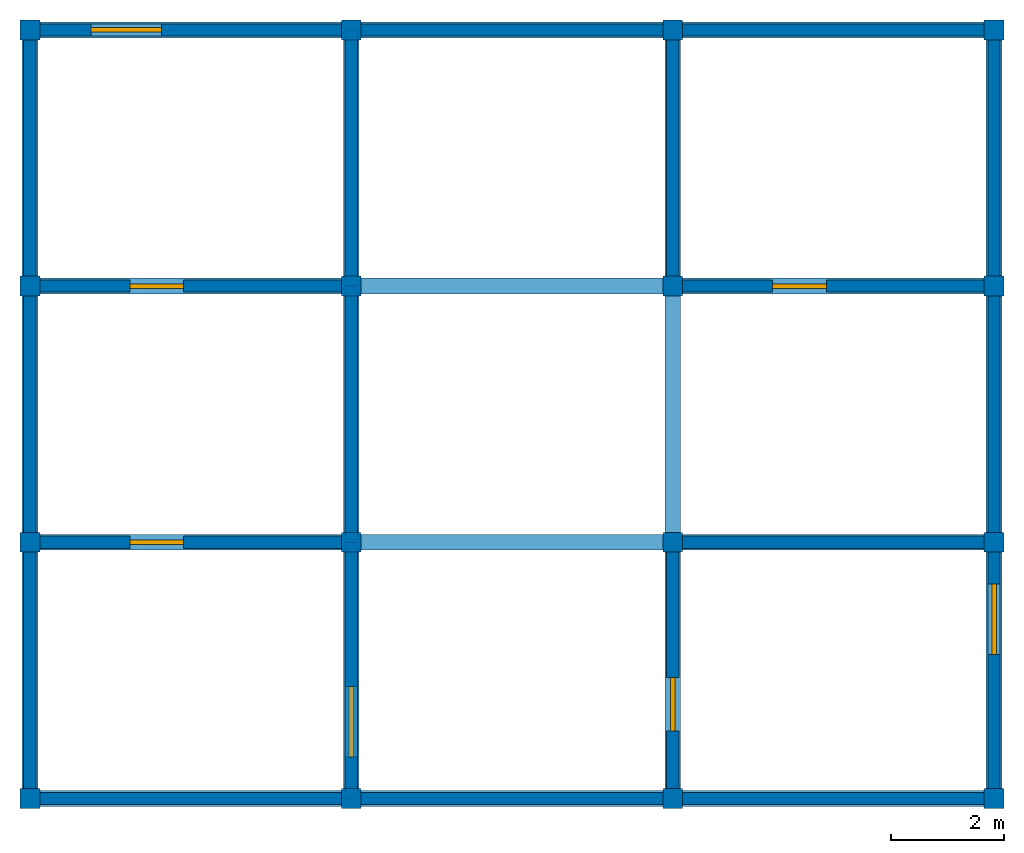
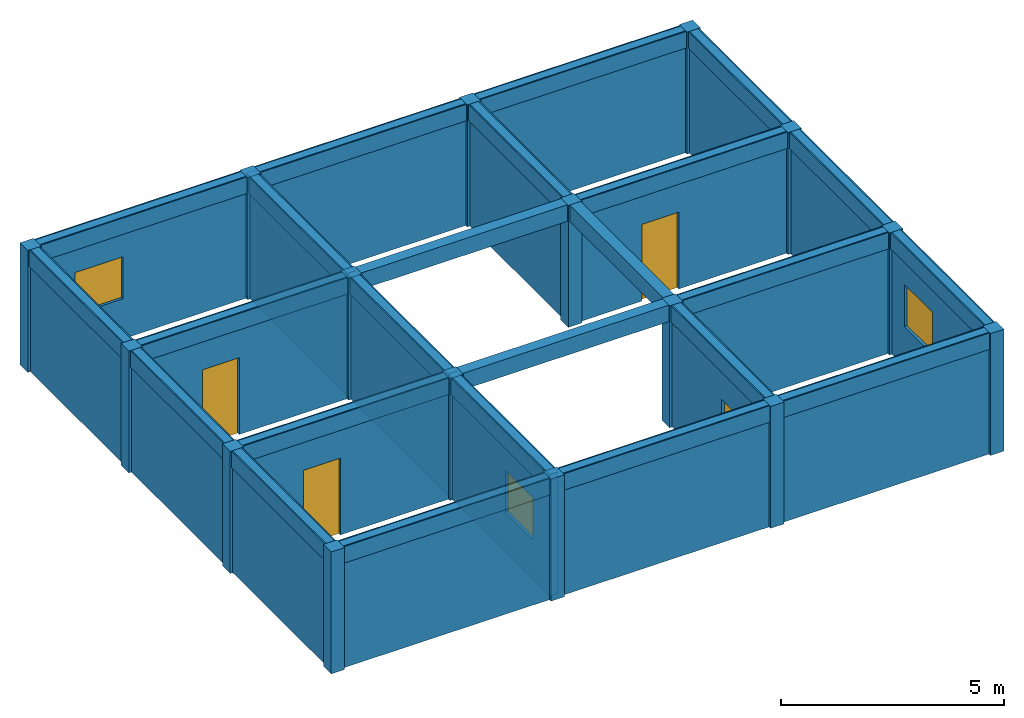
# One storey, incomplete: 24 beams, 24 walls, 16 columns, 4 doors, 3 windows, 7 openings.
"""IFC4X3 building model written with IfcOpenShell, lengths in metres."""

import ifcopenshell
import ifcopenshell.guid

model = None  # the IFC model being written
_history = None  # IfcOwnerHistory: only IFC2X3 demands one
_inside = {}  # id of a spatial element -> (the spatial element, [elements in it])
_under = {}  # id of a project, library or spatial element -> (it, [spatial elements below it])
_declared = {}  # id of a project -> (the project, [libraries it declares])
_typed = {}  # id of a type object -> (the type object, [elements of that type])
_made_of = {}  # id of a material, layer set ... -> (it, [elements and type objects made of it])


def new_model(schema):
    """Start an empty IFC model of exactly this schema.

    Asked for "IFC4X3", IfcOpenShell would pick the latest addendum, in which some entities
    have other attributes; the version numbers below select the first issue.
    IFC2X3 requires an IfcOwnerHistory on every rooted entity: one is made here for all.
    """
    global model, _history
    if schema == "IFC4X3":
        model = ifcopenshell.file(schema_version=(4, 3, 0, 0))
    else:
        model = ifcopenshell.file(schema=schema)
    _inside.clear()
    _under.clear()
    _declared.clear()
    _typed.clear()
    _made_of.clear()
    _history = None
    if model.schema == "IFC2X3":
        org = make("IfcOrganization", Name="unknown")
        user = make(
            "IfcPersonAndOrganization",
            ThePerson=make("IfcPerson", FamilyName="unknown"),
            TheOrganization=org,
        )
        app = make(
            "IfcApplication",
            ApplicationDeveloper=org,
            Version="unknown",
            ApplicationFullName="unknown",
            ApplicationIdentifier="unknown",
        )
        _history = make(
            "IfcOwnerHistory",
            OwningUser=user,
            OwningApplication=app,
            ChangeAction="ADDED",
            CreationDate=0,
        )
    return model


def make(cls, **values):
    """One entity of the class cls with the attributes given. An attribute that is None is left unset."""
    return model.create_entity(
        cls, **{name: value for name, value in values.items() if value is not None}
    )


def rooted(cls, **values):
    """An entity with a GlobalId (a new one), such as an element, a storey or a relation."""
    return make(cls, GlobalId=ifcopenshell.guid.new(), OwnerHistory=_history, **values)


def si_unit(unit_type, name, prefix=None):
    """IfcSIUnit, for example si_unit("LENGTHUNIT", "METRE", prefix="MILLI")."""
    return make("IfcSIUnit", UnitType=unit_type, Prefix=prefix, Name=name)


def assignment(units):
    """IfcUnitAssignment: the units of a project."""
    return None if units is None else make("IfcUnitAssignment", Units=units)


def point(xyz):
    """IfcCartesianPoint."""
    return None if xyz is None else make("IfcCartesianPoint", Coordinates=xyz)


def direction(xyz):
    """IfcDirection."""
    return None if xyz is None else make("IfcDirection", DirectionRatios=xyz)


def frame(location, z_axis=None, x_axis=None):
    """IfcAxis2Placement3D, a coordinate frame: its origin and axes. An axis left out is left unset."""
    return make(
        "IfcAxis2Placement3D",
        Location=point(location),
        Axis=direction(z_axis),
        RefDirection=direction(x_axis),
    )


def frame_2d(location, x_axis=None):
    """IfcAxis2Placement2D, a coordinate frame in the plane: its origin and x axis."""
    return make(
        "IfcAxis2Placement2D", Location=point(location), RefDirection=direction(x_axis)
    )


def origin_with_axes():
    """The frame at (0, 0, 0) with the z axis (0, 0, 1) and the x axis (1, 0, 0) written out."""
    return frame((0.0, 0.0, 0.0), z_axis=(0.0, 0.0, 1.0), x_axis=(1.0, 0.0, 0.0))


def origin_2d():
    """The frame at (0, 0) in the plane with its x axis left unset."""
    return frame_2d((0.0, 0.0))


def place(relative_to, where):
    """IfcLocalPlacement: puts the frame where relative to a parent placement (None: the world)."""
    return make(
        "IfcLocalPlacement", PlacementRelTo=relative_to, RelativePlacement=where
    )


def context(
    kind, dimensions, precision=None, world=None, true_north=None, identifier=None
):
    """IfcGeometricRepresentationContext, for example the 3D "Model" context."""
    return make(
        "IfcGeometricRepresentationContext",
        ContextIdentifier=identifier,
        ContextType=kind,
        CoordinateSpaceDimension=dimensions,
        Precision=precision,
        WorldCoordinateSystem=world,
        TrueNorth=true_north,
    )


def project(units=None, contexts=None):
    """IfcProject with its units and contexts."""
    return rooted(
        "IfcProject",
        Name="project",
        RepresentationContexts=contexts,
        UnitsInContext=assignment(units),
    )


def spatial(cls, under=None, at=None, **own):
    """A site, building, storey or space (cls), placed at a placement, below another one or the project."""
    s = rooted(cls, ObjectPlacement=at, **own)
    if under is not None:
        _under.setdefault(under.id(), (under, []))[1].append(s)
    return s


def profile(cls, at=None, kind="AREA", **sizes):
    """A parametric profile (cls). Its sizes go by their IFC names, for example OverallWidth=200.0."""
    return make(cls, ProfileType=kind, Position=at, **sizes)


def rectangle(**sizes):
    """IfcRectangleProfileDef."""
    return profile("IfcRectangleProfileDef", **sizes)


def extrude(swept, where, along, depth):
    """IfcExtrudedAreaSolid: the profile swept, set in the frame where, extruded along a direction by depth."""
    return make(
        "IfcExtrudedAreaSolid",
        SweptArea=swept,
        Position=where,
        ExtrudedDirection=direction(along),
        Depth=depth,
    )


def shape(context_of_items, identifier, shape_type, items):
    """IfcShapeRepresentation: the items that make up one representation, for example the "Body"."""
    return make(
        "IfcShapeRepresentation",
        ContextOfItems=context_of_items,
        RepresentationIdentifier=identifier,
        RepresentationType=shape_type,
        Items=items,
    )


def material(Name=None, Category=None):
    """IfcMaterial."""
    return make("IfcMaterial", Name=Name, Category=Category)


def made_of(thing, what):
    """Note that an element or type object is made of a material, layer set ...; save() writes the relation."""
    if what is not None:
        _made_of.setdefault(what.id(), (what, []))[1].append(thing)
    return thing


def element(
    cls,
    number,
    at=None,
    inside=None,
    cuts=None,
    type_object=None,
    material=None,
    context=None,
    identifier="Body",
    shape_type=None,
    held_by="IfcProductDefinitionShape",
    body=None,
    shapes=None,
    **own,
):
    """One element of the class cls, such as IfcWall. Its Tag is "e" and its number.

    at: its placement. inside: the storey or other place that contains it. cuts: it is an
    opening in that element (IfcRelVoidsElement). A single representation is given by context,
    identifier, shape_type and body (its items); several are given by shapes. held_by: the class
    of the entity that holds the representations. save() writes the other relations.
    """
    e = rooted(cls, Tag="e%d" % number, ObjectPlacement=at, **own)
    if body is not None:
        shapes = [shape(context, identifier, shape_type, body)]
    if shapes is not None:
        e.Representation = make(held_by, Representations=shapes)
    if inside is not None:
        _inside.setdefault(inside.id(), (inside, []))[1].append(e)
    if cuts is not None:
        rooted(
            "IfcRelVoidsElement", RelatingBuildingElement=cuts, RelatedOpeningElement=e
        )
    if type_object is not None:
        _typed.setdefault(type_object.id(), (type_object, []))[1].append(e)
    return made_of(e, material)


def fill(opening, filler):
    """IfcRelFillsElement: the door or window that sits in an opening."""
    return rooted(
        "IfcRelFillsElement",
        RelatingOpeningElement=opening,
        RelatedBuildingElement=filler,
    )


def aggregate(whole, parts):
    """IfcRelAggregates: a whole, such as a stair, and the parts it consists of."""
    return rooted("IfcRelAggregates", RelatingObject=whole, RelatedObjects=parts)


def save(model, path):
    """Write the relations noted so far, then the file.

    IfcRelAggregates (storeys below a building ...), IfcRelContainedInSpatialStructure (elements
    in a storey), IfcRelDefinesByType, IfcRelAssociatesMaterial and IfcRelDeclares: one each for
    every whole, place, type object, material and project.
    """
    for whole, parts in _under.values():
        aggregate(whole, parts)
    for where, things in _inside.values():
        rooted(
            "IfcRelContainedInSpatialStructure",
            RelatedElements=things,
            RelatingStructure=where,
        )
    for kind, things in _typed.values():
        rooted("IfcRelDefinesByType", RelatedObjects=things, RelatingType=kind)
    for what, things in _made_of.values():
        rooted("IfcRelAssociatesMaterial", RelatedObjects=things, RelatingMaterial=what)
    for by, libraries in _declared.values():
        rooted("IfcRelDeclares", RelatingContext=by, RelatedDefinitions=libraries)
    model.write(path)


model = new_model("IFC4X3")

# Units and contexts
model_context = context("Model", 3, precision=1e-05, world=origin_with_axes())
ifc_project = project(units=[si_unit("LENGTHUNIT", "METRE"), si_unit("AREAUNIT", "SQUARE_METRE"), si_unit("VOLUMEUNIT", "CUBIC_METRE")], contexts=[model_context])

# Site, building, storey
site = spatial("IfcSite", under=ifc_project, Name="Valdivia Parcel", CompositionType="ELEMENT")
building = spatial("IfcBuilding", under=site, Name="Strata Block", CompositionType="ELEMENT")
storey = spatial("IfcBuildingStorey", under=building, Name="Level 4", CompositionType="ELEMENT")

# Columns
ifc_material_1 = material(Name="Concrete")
column_1_placement = place(None, frame((-8.525, -6.795, 10.006), z_axis=(0.0, 0.0, 1.0), x_axis=(1.0, 0.0, 0.0)))
element("IfcColumn", 1, at=column_1_placement, inside=storey, material=ifc_material_1, Name="Column 4.1", ObjectType="Facade Column", PredefinedType="PILASTER", context=model_context, shape_type="SweptSolid", body=[
    extrude(rectangle(XDim=0.35, YDim=0.35, at=origin_2d()), origin_with_axes(), (0.0, 0.0, 1.0), 3.335),
])
for number, where, z_axis, x_axis, name in (
    (2, (-8.525, -2.265, 10.006), (0.0, 0.0, 1.0), (1.0, 0.0, 0.0), "Column 4.2"),
    (3, (-8.525, 2.265, 10.006), (0.0, 0.0, 1.0), (1.0, 0.0, 0.0), "Column 4.3"),
):
    element("IfcColumn", number, at=place(None, frame(where, z_axis=z_axis, x_axis=x_axis)), inside=storey, material=ifc_material_1, Name=name, ObjectType="Structural Column", PredefinedType="COLUMN", context=model_context, shape_type="SweptSolid", body=[
        extrude(rectangle(XDim=0.35, YDim=0.35, at=origin_2d()), origin_with_axes(), (0.0, 0.0, 1.0), 3.335),
    ])
column_2_placement = place(None, frame((-8.525, 6.795, 10.006), z_axis=(0.0, 0.0, 1.0), x_axis=(1.0, 0.0, 0.0)))
element("IfcColumn", 4, at=column_2_placement, inside=storey, material=ifc_material_1, Name="Column 4.4", ObjectType="Structural Column", PredefinedType="NOTDEFINED", context=model_context, shape_type="SweptSolid", body=[
    extrude(rectangle(XDim=0.35, YDim=0.35, at=origin_2d()), origin_with_axes(), (0.0, 0.0, 1.0), 3.335),
])
column_3_placement = place(None, frame((-2.842, -6.795, 10.006), z_axis=(0.0, 0.0, 1.0), x_axis=(1.0, 0.0, 0.0)))
element("IfcColumn", 5, at=column_3_placement, inside=storey, material=ifc_material_1, Name="Column 4.5", ObjectType="Structural Column", PredefinedType="USERDEFINED", context=model_context, shape_type="SweptSolid", body=[
    extrude(rectangle(XDim=0.35, YDim=0.35, at=origin_2d()), origin_with_axes(), (0.0, 0.0, 1.0), 3.335),
])
column_4_placement = place(None, frame((-2.842, -2.265, 10.006), z_axis=(0.0, 0.0, 1.0), x_axis=(1.0, 0.0, 0.0)))
element("IfcColumn", 6, at=column_4_placement, inside=storey, material=ifc_material_1, Name="Column 4.6", ObjectType="Facade Column", PredefinedType="NOTDEFINED", context=model_context, shape_type="SweptSolid", body=[
    extrude(rectangle(XDim=0.35, YDim=0.35, at=origin_2d()), origin_with_axes(), (0.0, 0.0, 1.0), 3.335),
])
column_5_placement = place(None, frame((-2.842, 2.265, 10.006), z_axis=(0.0, 0.0, 1.0), x_axis=(1.0, 0.0, 0.0)))
element("IfcColumn", 7, at=column_5_placement, inside=storey, material=ifc_material_1, Name="Column 4.7", ObjectType="Facade Column", PredefinedType="COLUMN", context=model_context, shape_type="SweptSolid", body=[
    extrude(rectangle(XDim=0.35, YDim=0.35, at=origin_2d()), origin_with_axes(), (0.0, 0.0, 1.0), 3.335),
])
column_6_placement = place(None, frame((-2.842, 6.795, 10.006), z_axis=(0.0, 0.0, 1.0), x_axis=(1.0, 0.0, 0.0)))
element("IfcColumn", 8, at=column_6_placement, inside=storey, material=ifc_material_1, Name="Column 4.8", ObjectType="Structural Column", PredefinedType="PILASTER", context=model_context, shape_type="SweptSolid", body=[
    extrude(rectangle(XDim=0.35, YDim=0.35, at=origin_2d()), origin_with_axes(), (0.0, 0.0, 1.0), 3.335),
])
column_7_placement = place(None, frame((2.841, -6.795, 10.006), z_axis=(0.0, 0.0, 1.0), x_axis=(1.0, 0.0, 0.0)))
element("IfcColumn", 9, at=column_7_placement, inside=storey, material=ifc_material_1, Name="Column 4.9", ObjectType="Corner Column", PredefinedType="USERDEFINED", context=model_context, shape_type="SweptSolid", body=[
    extrude(rectangle(XDim=0.35, YDim=0.35, at=origin_2d()), origin_with_axes(), (0.0, 0.0, 1.0), 3.335),
])
column_8_placement = place(None, frame((2.841, -2.265, 10.006), z_axis=(0.0, 0.0, 1.0), x_axis=(1.0, 0.0, 0.0)))
element("IfcColumn", 10, at=column_8_placement, inside=storey, material=ifc_material_1, Name="Column 4.10", ObjectType="Facade Column", PredefinedType="COLUMN", context=model_context, shape_type="SweptSolid", body=[
    extrude(rectangle(XDim=0.35, YDim=0.35, at=origin_2d()), origin_with_axes(), (0.0, 0.0, 1.0), 3.335),
])
column_9_placement = place(None, frame((2.841, 2.265, 10.006), z_axis=(0.0, 0.0, 1.0), x_axis=(1.0, 0.0, 0.0)))
element("IfcColumn", 11, at=column_9_placement, inside=storey, material=ifc_material_1, Name="Column 4.11", ObjectType="Structural Column", PredefinedType="USERDEFINED", context=model_context, shape_type="SweptSolid", body=[
    extrude(rectangle(XDim=0.35, YDim=0.35, at=origin_2d()), origin_with_axes(), (0.0, 0.0, 1.0), 3.335),
])
column_10_placement = place(None, frame((2.841, 6.795, 10.006), z_axis=(0.0, 0.0, 1.0), x_axis=(1.0, 0.0, 0.0)))
element("IfcColumn", 12, at=column_10_placement, inside=storey, material=ifc_material_1, Name="Column 4.12", ObjectType="Core Column", PredefinedType="COLUMN", context=model_context, shape_type="SweptSolid", body=[
    extrude(rectangle(XDim=0.35, YDim=0.35, at=origin_2d()), origin_with_axes(), (0.0, 0.0, 1.0), 3.335),
])
column_11_placement = place(None, frame((8.524, -6.795, 10.006), z_axis=(0.0, 0.0, 1.0), x_axis=(1.0, 0.0, 0.0)))
element("IfcColumn", 13, at=column_11_placement, inside=storey, material=ifc_material_1, Name="Column 4.13", ObjectType="Core Column", PredefinedType="USERDEFINED", context=model_context, shape_type="SweptSolid", body=[
    extrude(rectangle(XDim=0.35, YDim=0.35, at=origin_2d()), origin_with_axes(), (0.0, 0.0, 1.0), 3.335),
])
column_12_placement = place(None, frame((8.524, -2.265, 10.006), z_axis=(0.0, 0.0, 1.0), x_axis=(1.0, 0.0, 0.0)))
element("IfcColumn", 14, at=column_12_placement, inside=storey, material=ifc_material_1, Name="Column 4.14", ObjectType="Facade Column", PredefinedType="PILASTER", context=model_context, shape_type="SweptSolid", body=[
    extrude(rectangle(XDim=0.35, YDim=0.35, at=origin_2d()), origin_with_axes(), (0.0, 0.0, 1.0), 3.335),
])
for number, where, z_axis, x_axis, name in (
    (15, (8.524, 2.265, 10.006), (0.0, 0.0, 1.0), (1.0, 0.0, 0.0), "Column 4.15"),
    (16, (8.524, 6.795, 10.006), (0.0, 0.0, 1.0), (1.0, 0.0, 0.0), "Column 4.16"),
):
    element("IfcColumn", number, at=place(None, frame(where, z_axis=z_axis, x_axis=x_axis)), inside=storey, material=ifc_material_1, Name=name, ObjectType="Core Column", PredefinedType="USERDEFINED", context=model_context, shape_type="SweptSolid", body=[
        extrude(rectangle(XDim=0.35, YDim=0.35, at=origin_2d()), origin_with_axes(), (0.0, 0.0, 1.0), 3.335),
    ])

# Beams
ifc_material_2 = material(Name="Timber")
beam_1_placement = place(None, frame((-5.684, -6.795, 12.891), z_axis=(0.0, 0.0, 1.0), x_axis=(1.0, 0.0, 0.0)))
element("IfcBeam", 17, at=beam_1_placement, inside=storey, material=ifc_material_2, Name="Beam 4.1", ObjectType="Rafter Beam", PredefinedType="BEAM", context=model_context, shape_type="SweptSolid", body=[
    extrude(rectangle(XDim=5.683, YDim=0.28, at=origin_2d()), origin_with_axes(), (0.0, 0.0, 1.0), 0.45),
])
beam_2_placement = place(None, frame((0.0, -6.795, 12.891), z_axis=(0.0, 0.0, 1.0), x_axis=(1.0, 0.0, 0.0)))
element("IfcBeam", 18, at=beam_2_placement, inside=storey, material=ifc_material_2, Name="Beam 4.2", ObjectType="Primary Beam", PredefinedType="USERDEFINED", context=model_context, shape_type="SweptSolid", body=[
    extrude(rectangle(XDim=5.683, YDim=0.28, at=origin_2d()), origin_with_axes(), (0.0, 0.0, 1.0), 0.45),
])
beam_3_placement = place(None, frame((5.682, -6.795, 12.891), z_axis=(0.0, 0.0, 1.0), x_axis=(1.0, 0.0, 0.0)))
element("IfcBeam", 19, at=beam_3_placement, inside=storey, material=ifc_material_2, Name="Beam 4.3", ObjectType="Rafter Beam", PredefinedType="USERDEFINED", context=model_context, shape_type="SweptSolid", body=[
    extrude(rectangle(XDim=5.683, YDim=0.28, at=origin_2d()), origin_with_axes(), (0.0, 0.0, 1.0), 0.45),
])
beam_4_placement = place(None, frame((-5.684, -2.265, 12.891), z_axis=(0.0, 0.0, 1.0), x_axis=(1.0, 0.0, 0.0)))
element("IfcBeam", 20, at=beam_4_placement, inside=storey, material=ifc_material_2, Name="Beam 4.4", ObjectType="Secondary Beam", PredefinedType="BEAM", context=model_context, shape_type="SweptSolid", body=[
    extrude(rectangle(XDim=5.683, YDim=0.28, at=origin_2d()), origin_with_axes(), (0.0, 0.0, 1.0), 0.45),
])
beam_5_placement = place(None, frame((0.0, -2.265, 12.891), z_axis=(0.0, 0.0, 1.0), x_axis=(1.0, 0.0, 0.0)))
element("IfcBeam", 21, at=beam_5_placement, inside=storey, material=ifc_material_2, Name="Beam 4.5", ObjectType="Ridge Beam", PredefinedType="NOTDEFINED", context=model_context, shape_type="SweptSolid", body=[
    extrude(rectangle(XDim=5.683, YDim=0.28, at=origin_2d()), origin_with_axes(), (0.0, 0.0, 1.0), 0.45),
])
beam_6_placement = place(None, frame((5.682, -2.265, 12.891), z_axis=(0.0, 0.0, 1.0), x_axis=(1.0, 0.0, 0.0)))
element("IfcBeam", 22, at=beam_6_placement, inside=storey, material=ifc_material_2, Name="Beam 4.6", ObjectType="Primary Beam", PredefinedType="JOIST", context=model_context, shape_type="SweptSolid", body=[
    extrude(rectangle(XDim=5.683, YDim=0.28, at=origin_2d()), origin_with_axes(), (0.0, 0.0, 1.0), 0.45),
])
beam_7_placement = place(None, frame((-5.684, 2.265, 12.891), z_axis=(0.0, 0.0, 1.0), x_axis=(1.0, 0.0, 0.0)))
element("IfcBeam", 23, at=beam_7_placement, inside=storey, material=ifc_material_2, Name="Beam 4.7", ObjectType="Transfer Beam", PredefinedType="NOTDEFINED", context=model_context, shape_type="SweptSolid", body=[
    extrude(rectangle(XDim=5.683, YDim=0.28, at=origin_2d()), origin_with_axes(), (0.0, 0.0, 1.0), 0.45),
])
beam_8_placement = place(None, frame((0.0, 2.265, 12.891), z_axis=(0.0, 0.0, 1.0), x_axis=(1.0, 0.0, 0.0)))
element("IfcBeam", 24, at=beam_8_placement, inside=storey, material=ifc_material_2, Name="Beam 4.8", ObjectType="Transfer Beam", PredefinedType="T_BEAM", context=model_context, shape_type="SweptSolid", body=[
    extrude(rectangle(XDim=5.683, YDim=0.28, at=origin_2d()), origin_with_axes(), (0.0, 0.0, 1.0), 0.45),
])
beam_9_placement = place(None, frame((5.682, 2.265, 12.891), z_axis=(0.0, 0.0, 1.0), x_axis=(1.0, 0.0, 0.0)))
element("IfcBeam", 25, at=beam_9_placement, inside=storey, material=ifc_material_2, Name="Beam 4.9", ObjectType="Ridge Beam", PredefinedType="LINTEL", context=model_context, shape_type="SweptSolid", body=[
    extrude(rectangle(XDim=5.683, YDim=0.28, at=origin_2d()), origin_with_axes(), (0.0, 0.0, 1.0), 0.45),
])
beam_10_placement = place(None, frame((-5.684, 6.795, 12.891), z_axis=(0.0, 0.0, 1.0), x_axis=(1.0, 0.0, 0.0)))
element("IfcBeam", 26, at=beam_10_placement, inside=storey, material=ifc_material_2, Name="Beam 4.10", ObjectType="Primary Beam", PredefinedType="LINTEL", context=model_context, shape_type="SweptSolid", body=[
    extrude(rectangle(XDim=5.683, YDim=0.28, at=origin_2d()), origin_with_axes(), (0.0, 0.0, 1.0), 0.45),
])
beam_11_placement = place(None, frame((0.0, 6.795, 12.891), z_axis=(0.0, 0.0, 1.0), x_axis=(1.0, 0.0, 0.0)))
element("IfcBeam", 27, at=beam_11_placement, inside=storey, material=ifc_material_2, Name="Beam 4.11", ObjectType="Rafter Beam", PredefinedType="JOIST", context=model_context, shape_type="SweptSolid", body=[
    extrude(rectangle(XDim=5.683, YDim=0.28, at=origin_2d()), origin_with_axes(), (0.0, 0.0, 1.0), 0.45),
])
beam_12_placement = place(None, frame((5.682, 6.795, 12.891), z_axis=(0.0, 0.0, 1.0), x_axis=(1.0, 0.0, 0.0)))
element("IfcBeam", 28, at=beam_12_placement, inside=storey, material=ifc_material_2, Name="Beam 4.12", ObjectType="Primary Beam", PredefinedType="HOLLOWCORE", context=model_context, shape_type="SweptSolid", body=[
    extrude(rectangle(XDim=5.683, YDim=0.28, at=origin_2d()), origin_with_axes(), (0.0, 0.0, 1.0), 0.45),
])
beam_13_placement = place(None, frame((-8.525, -4.53, 12.891), z_axis=(0.0, 0.0, 1.0), x_axis=(0.0, 1.0, 0.0)))
element("IfcBeam", 29, at=beam_13_placement, inside=storey, material=ifc_material_2, Name="Beam 4.13", ObjectType="Rafter Beam", PredefinedType="BEAM", context=model_context, shape_type="SweptSolid", body=[
    extrude(rectangle(XDim=4.53, YDim=0.28, at=origin_2d()), origin_with_axes(), (0.0, 0.0, 1.0), 0.45),
])
beam_14_placement = place(None, frame((-8.525, 0.0, 12.891), z_axis=(0.0, 0.0, 1.0), x_axis=(0.0, 1.0, 0.0)))
element("IfcBeam", 30, at=beam_14_placement, inside=storey, material=ifc_material_2, Name="Beam 4.14", ObjectType="Rafter Beam", PredefinedType="T_BEAM", context=model_context, shape_type="SweptSolid", body=[
    extrude(rectangle(XDim=4.53, YDim=0.28, at=origin_2d()), origin_with_axes(), (0.0, 0.0, 1.0), 0.45),
])
beam_15_placement = place(None, frame((-8.525, 4.53, 12.891), z_axis=(0.0, 0.0, 1.0), x_axis=(0.0, 1.0, 0.0)))
element("IfcBeam", 31, at=beam_15_placement, inside=storey, material=ifc_material_2, Name="Beam 4.15", ObjectType="Secondary Beam", PredefinedType="SPANDREL", context=model_context, shape_type="SweptSolid", body=[
    extrude(rectangle(XDim=4.53, YDim=0.28, at=origin_2d()), origin_with_axes(), (0.0, 0.0, 1.0), 0.45),
])
beam_16_placement = place(None, frame((-2.842, -4.53, 12.891), z_axis=(0.0, 0.0, 1.0), x_axis=(0.0, 1.0, 0.0)))
element("IfcBeam", 32, at=beam_16_placement, inside=storey, material=ifc_material_2, Name="Beam 4.16", ObjectType="Ridge Beam", PredefinedType="T_BEAM", context=model_context, shape_type="SweptSolid", body=[
    extrude(rectangle(XDim=4.53, YDim=0.28, at=origin_2d()), origin_with_axes(), (0.0, 0.0, 1.0), 0.45),
])
beam_17_placement = place(None, frame((-2.842, 0.0, 12.891), z_axis=(0.0, 0.0, 1.0), x_axis=(0.0, 1.0, 0.0)))
element("IfcBeam", 33, at=beam_17_placement, inside=storey, material=ifc_material_2, Name="Beam 4.17", ObjectType="Primary Beam", PredefinedType="HOLLOWCORE", context=model_context, shape_type="SweptSolid", body=[
    extrude(rectangle(XDim=4.53, YDim=0.28, at=origin_2d()), origin_with_axes(), (0.0, 0.0, 1.0), 0.45),
])
beam_18_placement = place(None, frame((-2.842, 4.53, 12.891), z_axis=(0.0, 0.0, 1.0), x_axis=(0.0, 1.0, 0.0)))
element("IfcBeam", 34, at=beam_18_placement, inside=storey, material=ifc_material_2, Name="Beam 4.18", ObjectType="Ridge Beam", PredefinedType="HOLLOWCORE", context=model_context, shape_type="SweptSolid", body=[
    extrude(rectangle(XDim=4.53, YDim=0.28, at=origin_2d()), origin_with_axes(), (0.0, 0.0, 1.0), 0.45),
])
beam_19_placement = place(None, frame((2.841, -4.53, 12.891), z_axis=(0.0, 0.0, 1.0), x_axis=(0.0, 1.0, 0.0)))
element("IfcBeam", 35, at=beam_19_placement, inside=storey, material=ifc_material_2, Name="Beam 4.19", ObjectType="Transfer Beam", PredefinedType="HOLLOWCORE", context=model_context, shape_type="SweptSolid", body=[
    extrude(rectangle(XDim=4.53, YDim=0.28, at=origin_2d()), origin_with_axes(), (0.0, 0.0, 1.0), 0.45),
])
beam_20_placement = place(None, frame((2.841, 0.0, 12.891), z_axis=(0.0, 0.0, 1.0), x_axis=(0.0, 1.0, 0.0)))
element("IfcBeam", 36, at=beam_20_placement, inside=storey, material=ifc_material_2, Name="Beam 4.20", ObjectType="Ridge Beam", PredefinedType="LINTEL", context=model_context, shape_type="SweptSolid", body=[
    extrude(rectangle(XDim=4.53, YDim=0.28, at=origin_2d()), origin_with_axes(), (0.0, 0.0, 1.0), 0.45),
])
beam_21_placement = place(None, frame((2.841, 4.53, 12.891), z_axis=(0.0, 0.0, 1.0), x_axis=(0.0, 1.0, 0.0)))
element("IfcBeam", 37, at=beam_21_placement, inside=storey, material=ifc_material_2, Name="Beam 4.21", ObjectType="Rafter Beam", PredefinedType="USERDEFINED", context=model_context, shape_type="SweptSolid", body=[
    extrude(rectangle(XDim=4.53, YDim=0.28, at=origin_2d()), origin_with_axes(), (0.0, 0.0, 1.0), 0.45),
])
beam_22_placement = place(None, frame((8.524, -4.53, 12.891), z_axis=(0.0, 0.0, 1.0), x_axis=(0.0, 1.0, 0.0)))
element("IfcBeam", 38, at=beam_22_placement, inside=storey, material=ifc_material_2, Name="Beam 4.22", ObjectType="Ridge Beam", PredefinedType="USERDEFINED", context=model_context, shape_type="SweptSolid", body=[
    extrude(rectangle(XDim=4.53, YDim=0.28, at=origin_2d()), origin_with_axes(), (0.0, 0.0, 1.0), 0.45),
])
beam_23_placement = place(None, frame((8.524, 0.0, 12.891), z_axis=(0.0, 0.0, 1.0), x_axis=(0.0, 1.0, 0.0)))
element("IfcBeam", 39, at=beam_23_placement, inside=storey, material=ifc_material_2, Name="Beam 4.23", ObjectType="Ridge Beam", PredefinedType="T_BEAM", context=model_context, shape_type="SweptSolid", body=[
    extrude(rectangle(XDim=4.53, YDim=0.28, at=origin_2d()), origin_with_axes(), (0.0, 0.0, 1.0), 0.45),
])
beam_24_placement = place(None, frame((8.524, 4.53, 12.891), z_axis=(0.0, 0.0, 1.0), x_axis=(0.0, 1.0, 0.0)))
element("IfcBeam", 40, at=beam_24_placement, inside=storey, material=ifc_material_2, Name="Beam 4.24", ObjectType="Primary Beam", PredefinedType="SPANDREL", context=model_context, shape_type="SweptSolid", body=[
    extrude(rectangle(XDim=4.53, YDim=0.28, at=origin_2d()), origin_with_axes(), (0.0, 0.0, 1.0), 0.45),
])

# Wall, opening, door
wall_1_placement = place(None, frame((-5.684, -2.265, 10.006), z_axis=(0.0, 0.0, 1.0), x_axis=(1.0, 0.0, 0.0)))
wall_1 = element("IfcWall", 41, at=wall_1_placement, inside=storey, material=ifc_material_1, Name="Wall 4.1", ObjectType="Corridor Partition", PredefinedType="PLUMBINGWALL", context=model_context, shape_type="SweptSolid", body=[
    extrude(rectangle(XDim=5.683, YDim=0.217168, at=origin_2d()), origin_with_axes(), (0.0, 0.0, 1.0), 3.335),
])
opening_1_placement = place(None, frame((-6.284, -2.265, 10.006), z_axis=(0.0, 0.0, 1.0), x_axis=(1.0, 0.0, 0.0)))
opening_1 = element("IfcOpeningElement", 42, at=opening_1_placement, cuts=wall_1, Name="Door opening 4.1", ObjectType="Door Opening", PredefinedType="OPENING", context=model_context, shape_type="SweptSolid", body=[
    extrude(rectangle(XDim=0.95, YDim=0.297168, at=origin_2d()), origin_with_axes(), (0.0, 0.0, 1.0), 2.1),
])
door_1_placement = place(None, frame((-6.284, -2.265, 10.006), z_axis=(0.0, 0.0, 1.0), x_axis=(1.0, 0.0, 0.0)))
door_1 = element("IfcDoor", 43, at=door_1_placement, inside=storey, Name="Door 4.1", ObjectType="Entry Door", OverallHeight=2.1, OverallWidth=0.95, context=model_context, shape_type="SweptSolid", body=[
    extrude(rectangle(XDim=0.95, YDim=0.08, at=origin_2d()), origin_with_axes(), (0.0, 0.0, 1.0), 2.1),
])
fill(opening_1, door_1)

# Wall, opening, window
ifc_material_3 = material(Name="CLT")
wall_2_placement = place(None, frame((-2.8425, -4.53, 10.006), z_axis=(0.0, 0.0, 1.0), x_axis=(0.0, 1.0, 0.0)))
wall_2 = element("IfcWall", 44, at=wall_2_placement, inside=storey, material=ifc_material_3, Name="Wall 4.2", ObjectType="Exterior Wall", PredefinedType="SHEAR", context=model_context, shape_type="SweptSolid", body=[
    extrude(rectangle(XDim=4.53, YDim=0.217168, at=origin_2d()), origin_with_axes(), (0.0, 0.0, 1.0), 3.335),
])
opening_2_placement = place(None, frame((-2.843, -5.436, 11.106), z_axis=(0.0, 0.0, 1.0), x_axis=(0.0, 1.0, 0.0)))
opening_2 = element("IfcOpeningElement", 45, at=opening_2_placement, cuts=wall_2, Name="Window opening 4.2", ObjectType="Window Opening", PredefinedType="OPENING", context=model_context, shape_type="SweptSolid", body=[
    extrude(rectangle(XDim=1.25, YDim=0.297168, at=origin_2d()), origin_with_axes(), (0.0, 0.0, 1.0), 1.15),
])
window_1_placement = place(None, frame((-2.843, -5.436, 11.106), z_axis=(0.0, 0.0, 1.0), x_axis=(0.0, 1.0, 0.0)))
window_1 = element("IfcWindow", 46, at=window_1_placement, inside=storey, Name="Window 4.2", ObjectType="Curtain Window", OverallHeight=1.15, OverallWidth=1.25, context=model_context, shape_type="SweptSolid", body=[
    extrude(rectangle(XDim=1.25, YDim=0.08, at=origin_2d()), origin_with_axes(), (0.0, 0.0, 1.0), 1.15),
])
fill(opening_2, window_1)

# Walls
ifc_material_4 = material(Name="Brick")
wall_3_placement = place(None, frame((-5.684, -6.795, 10.006), z_axis=(0.0, 0.0, 1.0), x_axis=(1.0, 0.0, 0.0)))
element("IfcWall", 47, at=wall_3_placement, inside=storey, material=ifc_material_4, Name="Wall 4.3", ObjectType="Exterior Wall", PredefinedType="SHEAR", context=model_context, shape_type="SweptSolid", body=[
    extrude(rectangle(XDim=5.683, YDim=0.217168, at=origin_2d()), origin_with_axes(), (0.0, 0.0, 1.0), 3.335),
])
wall_4_placement = place(None, frame((-8.5255, -4.53, 10.006), z_axis=(0.0, 0.0, 1.0), x_axis=(0.0, 1.0, 0.0)))
element("IfcWall", 48, at=wall_4_placement, inside=storey, material=ifc_material_1, Name="Wall 4.4", ObjectType="Exterior Wall", PredefinedType="PLUMBINGWALL", context=model_context, shape_type="SweptSolid", body=[
    extrude(rectangle(XDim=4.53, YDim=0.217168, at=origin_2d()), origin_with_axes(), (0.0, 0.0, 1.0), 3.335),
])

# Wall, opening, door
wall_5_placement = place(None, frame((2.8405, -4.53, 10.006), z_axis=(0.0, 0.0, 1.0), x_axis=(0.0, 1.0, 0.0)))
wall_5 = element("IfcWall", 49, at=wall_5_placement, inside=storey, material=ifc_material_1, Name="Wall 4.5", ObjectType="Corridor Partition", PredefinedType="STANDARD", context=model_context, shape_type="SweptSolid", body=[
    extrude(rectangle(XDim=4.53, YDim=0.217168, at=origin_2d()), origin_with_axes(), (0.0, 0.0, 1.0), 3.335),
])
opening_3_placement = place(None, frame((2.841, -5.13, 10.006), z_axis=(0.0, 0.0, 1.0), x_axis=(0.0, 1.0, 0.0)))
opening_3 = element("IfcOpeningElement", 50, at=opening_3_placement, cuts=wall_5, Name="Door opening 4.3", ObjectType="Door Opening", PredefinedType="OPENING", context=model_context, shape_type="SweptSolid", body=[
    extrude(rectangle(XDim=0.95, YDim=0.297168, at=origin_2d()), origin_with_axes(), (0.0, 0.0, 1.0), 2.1),
])
door_2_placement = place(None, frame((2.841, -5.13, 10.006), z_axis=(0.0, 0.0, 1.0), x_axis=(0.0, 1.0, 0.0)))
door_2 = element("IfcDoor", 51, at=door_2_placement, inside=storey, Name="Door 4.3", ObjectType="Fire Door", OverallHeight=2.1, OverallWidth=0.95, context=model_context, shape_type="SweptSolid", body=[
    extrude(rectangle(XDim=0.95, YDim=0.08, at=origin_2d()), origin_with_axes(), (0.0, 0.0, 1.0), 2.1),
])
fill(opening_3, door_2)

# Walls
wall_6_placement = place(None, frame((-0.001, -6.795, 10.006), z_axis=(0.0, 0.0, 1.0), x_axis=(1.0, 0.0, 0.0)))
element("IfcWall", 52, at=wall_6_placement, inside=storey, material=ifc_material_1, Name="Wall 4.6", ObjectType="Exterior Wall", PredefinedType="USERDEFINED", context=model_context, shape_type="SweptSolid", body=[
    extrude(rectangle(XDim=5.683, YDim=0.217168, at=origin_2d()), origin_with_axes(), (0.0, 0.0, 1.0), 3.335),
])
wall_7_placement = place(None, frame((-2.8425, -4.53, 10.006), z_axis=(0.0, 0.0, 1.0), x_axis=(0.0, 1.0, 0.0)))
element("IfcWall", 53, at=wall_7_placement, inside=storey, material=ifc_material_3, Name="Wall 4.7", ObjectType="Exterior Wall", PredefinedType="NOTDEFINED", context=model_context, shape_type="SweptSolid", body=[
    extrude(rectangle(XDim=4.53, YDim=0.217168, at=origin_2d()), origin_with_axes(), (0.0, 0.0, 1.0), 3.335),
])
ifc_material_5 = material(Name="Gypsum")
wall_8_placement = place(None, frame((5.682, -2.265, 10.006), z_axis=(0.0, 0.0, 1.0), x_axis=(1.0, 0.0, 0.0)))
element("IfcWall", 54, at=wall_8_placement, inside=storey, material=ifc_material_5, Name="Wall 4.8", ObjectType="Corridor Partition", PredefinedType="ELEMENTEDWALL", context=model_context, shape_type="SweptSolid", body=[
    extrude(rectangle(XDim=5.683, YDim=0.217168, at=origin_2d()), origin_with_axes(), (0.0, 0.0, 1.0), 3.335),
])

# Wall, opening, window
wall_9_placement = place(None, frame((8.5235, -4.53, 10.006), z_axis=(0.0, 0.0, 1.0), x_axis=(0.0, 1.0, 0.0)))
wall_9 = element("IfcWall", 55, at=wall_9_placement, inside=storey, material=ifc_material_1, Name="Wall 4.9", ObjectType="Exterior Wall", PredefinedType="PLUMBINGWALL", context=model_context, shape_type="SweptSolid", body=[
    extrude(rectangle(XDim=4.53, YDim=0.217168, at=origin_2d()), origin_with_axes(), (0.0, 0.0, 1.0), 3.335),
])
opening_4_placement = place(None, frame((8.524, -3.624, 11.106), z_axis=(0.0, 0.0, 1.0), x_axis=(0.0, 1.0, 0.0)))
opening_4 = element("IfcOpeningElement", 56, at=opening_4_placement, cuts=wall_9, Name="Window opening 4.4", ObjectType="Window Opening", PredefinedType="OPENING", context=model_context, shape_type="SweptSolid", body=[
    extrude(rectangle(XDim=1.25, YDim=0.297168, at=origin_2d()), origin_with_axes(), (0.0, 0.0, 1.0), 1.15),
])
window_2_placement = place(None, frame((8.524, -3.624, 11.106), z_axis=(0.0, 0.0, 1.0), x_axis=(0.0, 1.0, 0.0)))
window_2 = element("IfcWindow", 57, at=window_2_placement, inside=storey, Name="Window 4.4", ObjectType="Fixed Window", OverallHeight=1.15, OverallWidth=1.25, context=model_context, shape_type="SweptSolid", body=[
    extrude(rectangle(XDim=1.25, YDim=0.08, at=origin_2d()), origin_with_axes(), (0.0, 0.0, 1.0), 1.15),
])
fill(opening_4, window_2)

# Wall
wall_10_placement = place(None, frame((5.682, -6.795, 10.006), z_axis=(0.0, 0.0, 1.0), x_axis=(1.0, 0.0, 0.0)))
element("IfcWall", 58, at=wall_10_placement, inside=storey, material=ifc_material_5, Name="Wall 4.10", ObjectType="Exterior Wall", PredefinedType="MOVABLE", context=model_context, shape_type="SweptSolid", body=[
    extrude(rectangle(XDim=5.683, YDim=0.217168, at=origin_2d()), origin_with_axes(), (0.0, 0.0, 1.0), 3.335),
])

# Wall, opening, door
wall_11_placement = place(None, frame((-5.684, 2.265, 10.006), z_axis=(0.0, 0.0, 1.0), x_axis=(1.0, 0.0, 0.0)))
wall_11 = element("IfcWall", 59, at=wall_11_placement, inside=storey, material=ifc_material_4, Name="Wall 4.11", ObjectType="Corridor Partition", PredefinedType="PARAPET", context=model_context, shape_type="SweptSolid", body=[
    extrude(rectangle(XDim=5.683, YDim=0.217168, at=origin_2d()), origin_with_axes(), (0.0, 0.0, 1.0), 3.335),
])
opening_5_placement = place(None, frame((-6.284, 2.265, 10.006), z_axis=(0.0, 0.0, 1.0), x_axis=(1.0, 0.0, 0.0)))
opening_5 = element("IfcOpeningElement", 60, at=opening_5_placement, cuts=wall_11, Name="Door opening 4.5", ObjectType="Door Opening", PredefinedType="OPENING", context=model_context, shape_type="SweptSolid", body=[
    extrude(rectangle(XDim=0.95, YDim=0.297168, at=origin_2d()), origin_with_axes(), (0.0, 0.0, 1.0), 2.1),
])
door_3_placement = place(None, frame((-6.284, 2.265, 10.006), z_axis=(0.0, 0.0, 1.0), x_axis=(1.0, 0.0, 0.0)))
door_3 = element("IfcDoor", 61, at=door_3_placement, inside=storey, Name="Door 4.5", ObjectType="Interior Door", OverallHeight=2.1, OverallWidth=0.95, context=model_context, shape_type="SweptSolid", body=[
    extrude(rectangle(XDim=0.95, YDim=0.08, at=origin_2d()), origin_with_axes(), (0.0, 0.0, 1.0), 2.1),
])
fill(opening_5, door_3)

# Walls
wall_12_placement = place(None, frame((-2.8425, 0.0, 10.006), z_axis=(0.0, 0.0, 1.0), x_axis=(0.0, 1.0, 0.0)))
element("IfcWall", 62, at=wall_12_placement, inside=storey, material=ifc_material_1, Name="Wall 4.12", ObjectType="Exterior Wall", PredefinedType="STANDARD", context=model_context, shape_type="SweptSolid", body=[
    extrude(rectangle(XDim=4.53, YDim=0.217168, at=origin_2d()), origin_with_axes(), (0.0, 0.0, 1.0), 3.335),
])
wall_13_placement = place(None, frame((-8.5255, 0.0, 10.006), z_axis=(0.0, 0.0, 1.0), x_axis=(0.0, 1.0, 0.0)))
element("IfcWall", 63, at=wall_13_placement, inside=storey, material=ifc_material_1, Name="Wall 4.13", ObjectType="Exterior Wall", PredefinedType="PLUMBINGWALL", context=model_context, shape_type="SweptSolid", body=[
    extrude(rectangle(XDim=4.53, YDim=0.217168, at=origin_2d()), origin_with_axes(), (0.0, 0.0, 1.0), 3.335),
])
wall_14_placement = place(None, frame((-2.8425, 0.0, 10.006), z_axis=(0.0, 0.0, 1.0), x_axis=(0.0, 1.0, 0.0)))
element("IfcWall", 64, at=wall_14_placement, inside=storey, material=ifc_material_5, Name="Wall 4.14", ObjectType="Exterior Wall", PredefinedType="MOVABLE", context=model_context, shape_type="SweptSolid", body=[
    extrude(rectangle(XDim=4.53, YDim=0.217168, at=origin_2d()), origin_with_axes(), (0.0, 0.0, 1.0), 3.335),
])

# Wall, opening, door
wall_15_placement = place(None, frame((5.682, 2.265, 10.006), z_axis=(0.0, 0.0, 1.0), x_axis=(1.0, 0.0, 0.0)))
wall_15 = element("IfcWall", 65, at=wall_15_placement, inside=storey, material=ifc_material_3, Name="Wall 4.15", ObjectType="Corridor Partition", PredefinedType="SOLIDWALL", context=model_context, shape_type="SweptSolid", body=[
    extrude(rectangle(XDim=5.683, YDim=0.217168, at=origin_2d()), origin_with_axes(), (0.0, 0.0, 1.0), 3.335),
])
opening_6_placement = place(None, frame((5.082, 2.265, 10.006), z_axis=(0.0, 0.0, 1.0), x_axis=(1.0, 0.0, 0.0)))
opening_6 = element("IfcOpeningElement", 66, at=opening_6_placement, cuts=wall_15, Name="Door opening 4.7", ObjectType="Door Opening", PredefinedType="OPENING", context=model_context, shape_type="SweptSolid", body=[
    extrude(rectangle(XDim=0.95, YDim=0.297168, at=origin_2d()), origin_with_axes(), (0.0, 0.0, 1.0), 2.1),
])
door_4_placement = place(None, frame((5.082, 2.265, 10.006), z_axis=(0.0, 0.0, 1.0), x_axis=(1.0, 0.0, 0.0)))
door_4 = element("IfcDoor", 67, at=door_4_placement, inside=storey, Name="Door 4.7", ObjectType="Entry Door", OverallHeight=2.1, OverallWidth=0.95, context=model_context, shape_type="SweptSolid", body=[
    extrude(rectangle(XDim=0.95, YDim=0.08, at=origin_2d()), origin_with_axes(), (0.0, 0.0, 1.0), 2.1),
])
fill(opening_6, door_4)

# Wall
wall_16_placement = place(None, frame((8.5235, 0.0, 10.006), z_axis=(0.0, 0.0, 1.0), x_axis=(0.0, 1.0, 0.0)))
element("IfcWall", 68, at=wall_16_placement, inside=storey, material=ifc_material_5, Name="Wall 4.16", ObjectType="Exterior Wall", PredefinedType="MOVABLE", context=model_context, shape_type="SweptSolid", body=[
    extrude(rectangle(XDim=4.53, YDim=0.217168, at=origin_2d()), origin_with_axes(), (0.0, 0.0, 1.0), 3.335),
])

# Wall, opening, window
wall_17_placement = place(None, frame((-5.684, 6.795, 10.006), z_axis=(0.0, 0.0, 1.0), x_axis=(1.0, 0.0, 0.0)))
wall_17 = element("IfcWall", 69, at=wall_17_placement, inside=storey, material=ifc_material_4, Name="Wall 4.17", ObjectType="Exterior Wall", PredefinedType="SOLIDWALL", context=model_context, shape_type="SweptSolid", body=[
    extrude(rectangle(XDim=5.683, YDim=0.217168, at=origin_2d()), origin_with_axes(), (0.0, 0.0, 1.0), 3.335),
])
opening_7_placement = place(None, frame((-6.821, 6.795, 11.106), z_axis=(0.0, 0.0, 1.0), x_axis=(1.0, 0.0, 0.0)))
opening_7 = element("IfcOpeningElement", 70, at=opening_7_placement, cuts=wall_17, Name="Window opening 4.6", ObjectType="Window Opening", PredefinedType="OPENING", context=model_context, shape_type="SweptSolid", body=[
    extrude(rectangle(XDim=1.25, YDim=0.297168, at=origin_2d()), origin_with_axes(), (0.0, 0.0, 1.0), 1.15),
])
window_3_placement = place(None, frame((-6.821, 6.795, 11.106), z_axis=(0.0, 0.0, 1.0), x_axis=(1.0, 0.0, 0.0)))
window_3 = element("IfcWindow", 71, at=window_3_placement, inside=storey, Name="Window 4.6", ObjectType="Sliding Window", OverallHeight=1.15, OverallWidth=1.25, context=model_context, shape_type="SweptSolid", body=[
    extrude(rectangle(XDim=1.25, YDim=0.08, at=origin_2d()), origin_with_axes(), (0.0, 0.0, 1.0), 1.15),
])
fill(opening_7, window_3)

# Walls
wall_18_placement = place(None, frame((-2.8425, 4.53, 10.006), z_axis=(0.0, 0.0, 1.0), x_axis=(0.0, 1.0, 0.0)))
element("IfcWall", 72, at=wall_18_placement, inside=storey, material=ifc_material_1, Name="Wall 4.18", ObjectType="Exterior Wall", PredefinedType="PARAPET", context=model_context, shape_type="SweptSolid", body=[
    extrude(rectangle(XDim=4.53, YDim=0.217168, at=origin_2d()), origin_with_axes(), (0.0, 0.0, 1.0), 3.335),
])
wall_19_placement = place(None, frame((-8.5255, 4.53, 10.006), z_axis=(0.0, 0.0, 1.0), x_axis=(0.0, 1.0, 0.0)))
element("IfcWall", 73, at=wall_19_placement, inside=storey, material=ifc_material_5, Name="Wall 4.19", ObjectType="Exterior Wall", PredefinedType="USERDEFINED", context=model_context, shape_type="SweptSolid", body=[
    extrude(rectangle(XDim=4.53, YDim=0.217168, at=origin_2d()), origin_with_axes(), (0.0, 0.0, 1.0), 3.335),
])
wall_20_placement = place(None, frame((-0.001, 6.795, 10.006), z_axis=(0.0, 0.0, 1.0), x_axis=(1.0, 0.0, 0.0)))
element("IfcWall", 74, at=wall_20_placement, inside=storey, material=ifc_material_5, Name="Wall 4.20", ObjectType="Exterior Wall", PredefinedType="SOLIDWALL", context=model_context, shape_type="SweptSolid", body=[
    extrude(rectangle(XDim=5.683, YDim=0.217168, at=origin_2d()), origin_with_axes(), (0.0, 0.0, 1.0), 3.335),
])
wall_21_placement = place(None, frame((2.8405, 4.53, 10.006), z_axis=(0.0, 0.0, 1.0), x_axis=(0.0, 1.0, 0.0)))
element("IfcWall", 75, at=wall_21_placement, inside=storey, material=ifc_material_5, Name="Wall 4.21", ObjectType="Corridor Partition", PredefinedType="MOVABLE", context=model_context, shape_type="SweptSolid", body=[
    extrude(rectangle(XDim=4.53, YDim=0.217168, at=origin_2d()), origin_with_axes(), (0.0, 0.0, 1.0), 3.335),
])
wall_22_placement = place(None, frame((-2.8425, 4.53, 10.006), z_axis=(0.0, 0.0, 1.0), x_axis=(0.0, 1.0, 0.0)))
element("IfcWall", 76, at=wall_22_placement, inside=storey, material=ifc_material_5, Name="Wall 4.22", ObjectType="Exterior Wall", PredefinedType="USERDEFINED", context=model_context, shape_type="SweptSolid", body=[
    extrude(rectangle(XDim=4.53, YDim=0.217168, at=origin_2d()), origin_with_axes(), (0.0, 0.0, 1.0), 3.335),
])
wall_23_placement = place(None, frame((5.682, 6.795, 10.006), z_axis=(0.0, 0.0, 1.0), x_axis=(1.0, 0.0, 0.0)))
element("IfcWall", 77, at=wall_23_placement, inside=storey, material=ifc_material_5, Name="Wall 4.23", ObjectType="Exterior Wall", PredefinedType="SOLIDWALL", context=model_context, shape_type="SweptSolid", body=[
    extrude(rectangle(XDim=5.683, YDim=0.217168, at=origin_2d()), origin_with_axes(), (0.0, 0.0, 1.0), 3.335),
])
wall_24_placement = place(None, frame((8.5235, 4.53, 10.006), z_axis=(0.0, 0.0, 1.0), x_axis=(0.0, 1.0, 0.0)))
element("IfcWall", 78, at=wall_24_placement, inside=storey, material=ifc_material_3, Name="Wall 4.24", ObjectType="Exterior Wall", PredefinedType="MOVABLE", context=model_context, shape_type="SweptSolid", body=[
    extrude(rectangle(XDim=4.53, YDim=0.217168, at=origin_2d()), origin_with_axes(), (0.0, 0.0, 1.0), 3.335),
])

save(model, "model.ifc")
